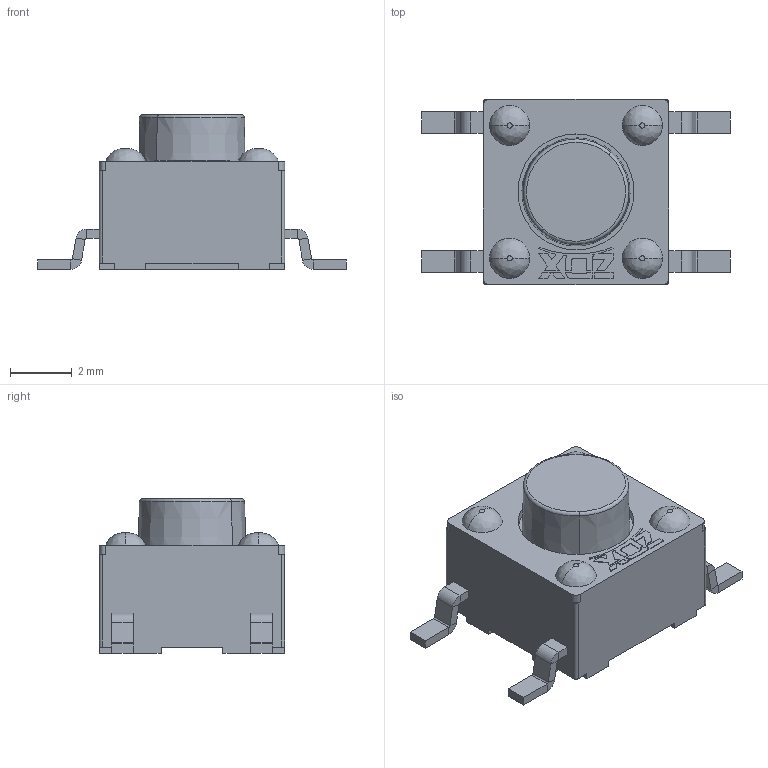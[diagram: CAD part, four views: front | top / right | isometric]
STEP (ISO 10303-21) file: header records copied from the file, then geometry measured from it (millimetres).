
FILE_DESCRIPTION((''),'2;1');
FILE_NAME('ASM0006_ASM','2024-01-06T',('WYH'),(''),'PRO/ENGINEER BY PARAMETRIC TECHNOLOGY CORPORATION, 2013040','PRO/ENGINEER BY PARAMETRIC TECHNOLOGY CORPORATION, 2013040','');
FILE_SCHEMA(('CONFIG_CONTROL_DESIGN'));
Length unit declared in the file: millimetre
Products named in the file (1): ASM0006_ASM
Bounding box: 10 x 6 x 5 mm (x, y, z)
Volume: 116.1 mm3; surface area: 335.3 mm2
Topology: 1 solids, 2 shells, 310 faces, 749 edges, 470 vertices
Faces by surface type: plane 213, cylinder 57, extrusion 12, bspline 12, torus 10, cone 6
Entity records: 9772 total; most frequent: CARTESIAN_POINT 2488, ORIENTED_EDGE 1498, DIRECTION 1461, EDGE_CURVE 749, VECTOR 569, LINE 557, VERTEX_POINT 470, AXIS2_PLACEMENT_3D 446
